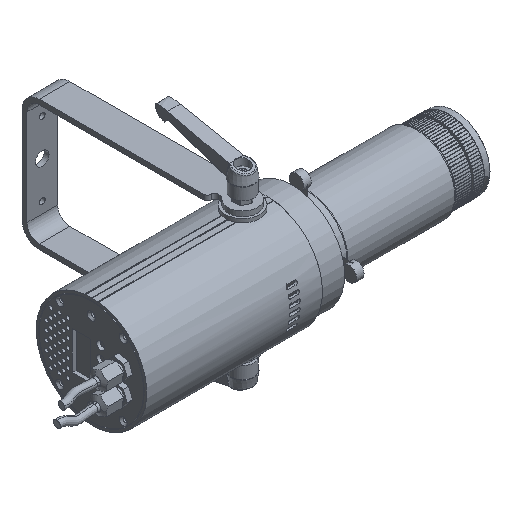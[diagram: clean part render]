
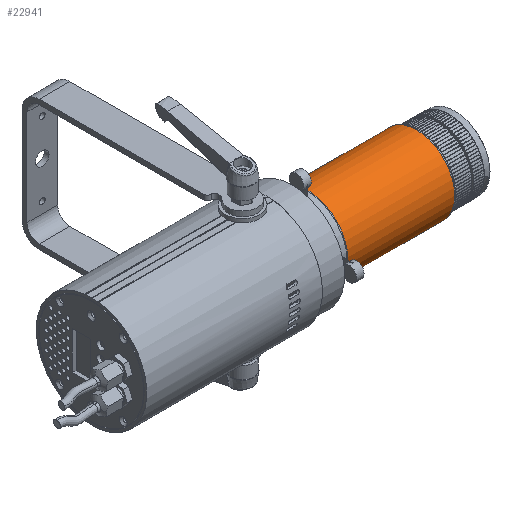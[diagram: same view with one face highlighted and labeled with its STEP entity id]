
A CAD part, isometric view. The second image highlights one B-rep face of the part: STEP entity #22941.
In plain terms, the highlighted cylindrical face has radius 31 mm (diameter 62 mm), a full revolution.
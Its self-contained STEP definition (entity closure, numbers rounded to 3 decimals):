
#368 = CARTESIAN_POINT ( 'NONE',  ( 264.5, 0., 31. ) ) ;
#679 = DIRECTION ( 'NONE',  ( -1., 0., 0. ) ) ;
#1430 = ORIENTED_EDGE ( 'NONE', *, *, #11474, .T. ) ;
#1664 = AXIS2_PLACEMENT_3D ( 'NONE', #15025, #2115, #18627 ) ;
#2115 = DIRECTION ( 'NONE',  ( -1., 0., 0. ) ) ;
#2838 = DIRECTION ( 'NONE',  ( 0., 0., 1. ) ) ;
#3039 = DIRECTION ( 'NONE',  ( -1., 0., 0. ) ) ;
#5744 = VERTEX_POINT ( 'NONE', #368 ) ;
#6441 = EDGE_CURVE ( 'NONE', #36920, #36920, #13802, .T. ) ;
#7868 = CARTESIAN_POINT ( 'NONE',  ( 176.5, 0., 31. ) ) ;
#11474 = EDGE_CURVE ( 'NONE', #5744, #5744, #26380, .T. ) ;
#13802 = CIRCLE ( 'NONE', #1664, 31. ) ;
#14155 = AXIS2_PLACEMENT_3D ( 'NONE', #19960, #3039, #2838 ) ;
#15025 = CARTESIAN_POINT ( 'NONE',  ( 176.5, 0., 0. ) ) ;
#16899 = ORIENTED_EDGE ( 'NONE', *, *, #6441, .F. ) ;
#16978 = FACE_OUTER_BOUND ( 'NONE', #29548, .T. ) ;
#18627 = DIRECTION ( 'NONE',  ( 0., 0., 1. ) ) ;
#19960 = CARTESIAN_POINT ( 'NONE',  ( 264.5, 0., 0. ) ) ;
#20143 = FACE_OUTER_BOUND ( 'NONE', #21850, .T. ) ;
#21850 = EDGE_LOOP ( 'NONE', ( #1430 ) ) ;
#22941 = ADVANCED_FACE ( 'NONE', ( #20143, #16978 ), #26324, .T. ) ;
#23349 = DIRECTION ( 'NONE',  ( 0., 0., 1. ) ) ;
#26324 = CYLINDRICAL_SURFACE ( 'NONE', #34924, 31. ) ;
#26380 = CIRCLE ( 'NONE', #14155, 31. ) ;
#29548 = EDGE_LOOP ( 'NONE', ( #16899 ) ) ;
#32697 = CARTESIAN_POINT ( 'NONE',  ( 0., 0., 0. ) ) ;
#34924 = AXIS2_PLACEMENT_3D ( 'NONE', #32697, #679, #23349 ) ;
#36920 = VERTEX_POINT ( 'NONE', #7868 ) ;
